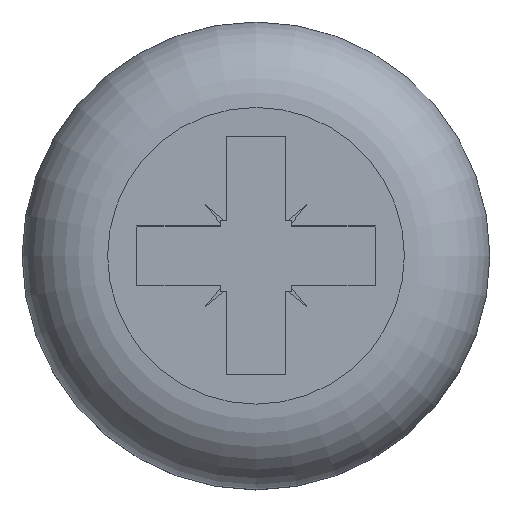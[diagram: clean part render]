
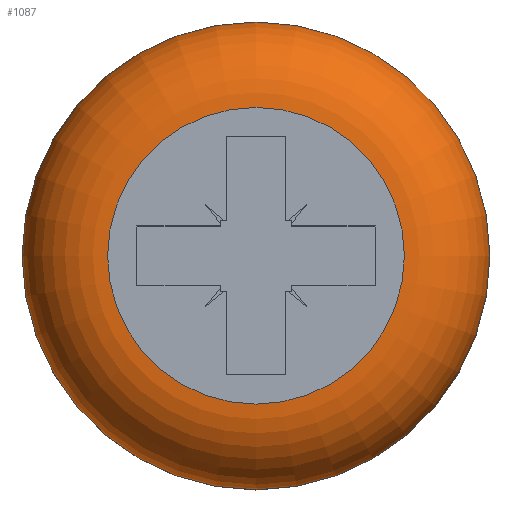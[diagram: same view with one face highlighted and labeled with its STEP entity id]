
A CAD part, top view. The second image highlights one B-rep face of the part: STEP entity #1087.
In plain terms, the highlighted toroidal (fillet/blend) face has major radius 3.425 mm and minor radius 1.975 mm.
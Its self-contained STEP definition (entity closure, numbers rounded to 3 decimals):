
#18=TOROIDAL_SURFACE('',#1157,3.425,1.975);
#73=FACE_OUTER_BOUND('',#127,.T.);
#127=EDGE_LOOP('',(#844,#845,#846,#847,#848));
#171=CIRCLE('',#1158,5.4);
#172=CIRCLE('',#1159,1.975);
#173=CIRCLE('',#1160,3.425);
#174=CIRCLE('',#1161,5.4);
#490=VERTEX_POINT('',#8527);
#491=VERTEX_POINT('',#8528);
#492=VERTEX_POINT('',#8530);
#622=EDGE_CURVE('',#490,#491,#171,.T.);
#623=EDGE_CURVE('',#491,#492,#172,.T.);
#624=EDGE_CURVE('',#492,#492,#173,.T.);
#625=EDGE_CURVE('',#491,#490,#174,.T.);
#844=ORIENTED_EDGE('',*,*,#622,.T.);
#845=ORIENTED_EDGE('',*,*,#623,.T.);
#846=ORIENTED_EDGE('',*,*,#624,.T.);
#847=ORIENTED_EDGE('',*,*,#623,.F.);
#848=ORIENTED_EDGE('',*,*,#625,.T.);
#1087=ADVANCED_FACE('',(#73),#18,.T.);
#1157=AXIS2_PLACEMENT_3D('',#8526,#1250,#1251);
#1158=AXIS2_PLACEMENT_3D('',#8529,#1252,#1253);
#1159=AXIS2_PLACEMENT_3D('',#8531,#1254,#1255);
#1160=AXIS2_PLACEMENT_3D('',#8532,#1256,#1257);
#1161=AXIS2_PLACEMENT_3D('',#8533,#1258,#1259);
#1250=DIRECTION('center_axis',(0.,0.,-1.));
#1251=DIRECTION('ref_axis',(-1.,0.,0.));
#1252=DIRECTION('center_axis',(0.,0.,1.));
#1253=DIRECTION('ref_axis',(0.,-1.,0.));
#1254=DIRECTION('center_axis',(0.,-1.,0.));
#1255=DIRECTION('ref_axis',(1.,0.,0.));
#1256=DIRECTION('center_axis',(0.,0.,-1.));
#1257=DIRECTION('ref_axis',(0.,-1.,0.));
#1258=DIRECTION('center_axis',(0.,0.,1.));
#1259=DIRECTION('ref_axis',(0.,-1.,0.));
#8526=CARTESIAN_POINT('Origin',(0.,0.,14.475));
#8527=CARTESIAN_POINT('',(0.,-5.4,14.475));
#8528=CARTESIAN_POINT('',(5.4,0.,14.475));
#8529=CARTESIAN_POINT('Origin',(0.,0.,14.475));
#8530=CARTESIAN_POINT('',(3.425,0.,16.45));
#8531=CARTESIAN_POINT('Origin',(3.425,0.,14.475));
#8532=CARTESIAN_POINT('Origin',(0.,0.,16.45));
#8533=CARTESIAN_POINT('Origin',(0.,0.,14.475));
